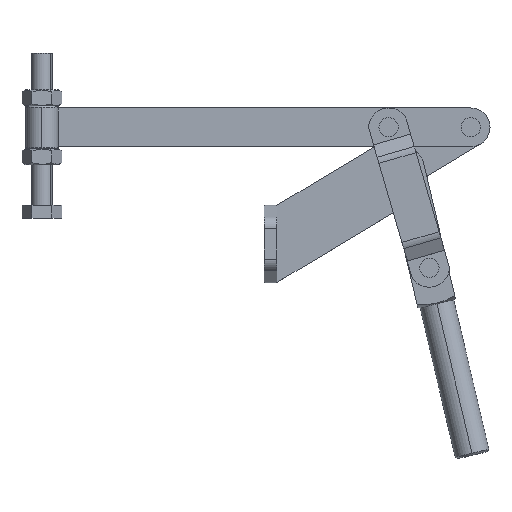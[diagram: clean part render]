
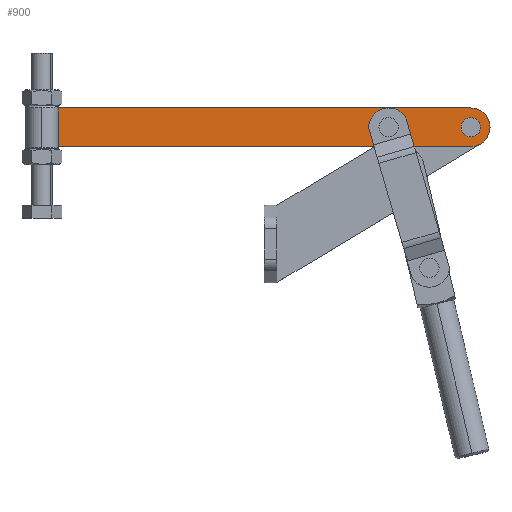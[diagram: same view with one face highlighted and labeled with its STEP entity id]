
A CAD part, top view. The second image highlights one B-rep face of the part: STEP entity #900.
In plain terms, the highlighted planar face has unit normal (0, 0, 1) as drawn and (0, 0, -1) by its records, which use the part's own axes.
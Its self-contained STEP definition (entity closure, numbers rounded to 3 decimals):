
#2 = EDGE_CURVE ( 'NONE', #1399, #1011, #3163, .T. ) ;
#14 = EDGE_CURVE ( 'NONE', #999, #1076, #3095, .T. ) ;
#38 = EDGE_CURVE ( 'NONE', #1320, #1068, #3143, .T. ) ;
#44 = EDGE_CURVE ( 'NONE', #1067, #1052, #423, .T. ) ;
#67 = EDGE_CURVE ( 'NONE', #1068, #1067, #269, .T. ) ;
#96 = EDGE_CURVE ( 'NONE', #1052, #1320, #2796, .T. ) ;
#104 = EDGE_CURVE ( 'NONE', #1076, #999, #7279, .T. ) ;
#107 = EDGE_CURVE ( 'NONE', #1011, #1399, #7286, .T. ) ;
#261 = DIRECTION ( 'NONE',  ( -1., 0., 0. ) ) ;
#266 = CARTESIAN_POINT ( 'NONE',  ( -213., 9.525, -9.525 ) ) ;
#269 = LINE ( 'NONE', #266, #7290 ) ;
#354 = CARTESIAN_POINT ( 'NONE',  ( -9.525, 0., -9.525 ) ) ;
#366 = DIRECTION ( 'NONE',  ( 0., 0., 1. ) ) ;
#370 = DIRECTION ( 'NONE',  ( -1., 0., 0. ) ) ;
#420 = DIRECTION ( 'NONE',  ( 0., -1., 0. ) ) ;
#422 = CARTESIAN_POINT ( 'NONE',  ( -213., -9.525, -9.525 ) ) ;
#423 = LINE ( 'NONE', #422, #3091 ) ;
#590 = DIRECTION ( 'NONE',  ( 1., 0., 0. ) ) ;
#591 = DIRECTION ( 'NONE',  ( 0., 0., 1. ) ) ;
#593 = CARTESIAN_POINT ( 'NONE',  ( -9.525, 0., -9.525 ) ) ;
#671 = DIRECTION ( 'NONE',  ( 1., 0., 0. ) ) ;
#672 = DIRECTION ( 'NONE',  ( 0., 0., 1. ) ) ;
#673 = CARTESIAN_POINT ( 'NONE',  ( -50.025, 0., -9.525 ) ) ;
#704 = CARTESIAN_POINT ( 'NONE',  ( -5.525, 0., -9.525 ) ) ;
#747 = CARTESIAN_POINT ( 'NONE',  ( -46.025, 0., -9.525 ) ) ;
#750 = CARTESIAN_POINT ( 'NONE',  ( -213., 9.525, -9.525 ) ) ;
#753 = CARTESIAN_POINT ( 'NONE',  ( -9.525, 9.525, -9.525 ) ) ;
#756 = CARTESIAN_POINT ( 'NONE',  ( -213., -9.525, -9.525 ) ) ;
#780 = CARTESIAN_POINT ( 'NONE',  ( -13.525, 0., -9.525 ) ) ;
#790 = CARTESIAN_POINT ( 'NONE',  ( -54.025, 0., -9.525 ) ) ;
#821 = CARTESIAN_POINT ( 'NONE',  ( -9.525, -9.525, -9.525 ) ) ;
#900 = ADVANCED_FACE ( 'NONE', ( #2075, #2073, #2049 ), #2058, .T. ) ;
#999 = VERTEX_POINT ( 'NONE', #790 ) ;
#1011 = VERTEX_POINT ( 'NONE', #780 ) ;
#1052 = VERTEX_POINT ( 'NONE', #756 ) ;
#1067 = VERTEX_POINT ( 'NONE', #750 ) ;
#1068 = VERTEX_POINT ( 'NONE', #753 ) ;
#1076 = VERTEX_POINT ( 'NONE', #747 ) ;
#1289 = EDGE_LOOP ( 'NONE', ( #6498, #6499, #6503, #6504 ) ) ;
#1290 = EDGE_LOOP ( 'NONE', ( #6496, #6497 ) ) ;
#1298 = EDGE_LOOP ( 'NONE', ( #6492, #6493 ) ) ;
#1320 = VERTEX_POINT ( 'NONE', #821 ) ;
#1399 = VERTEX_POINT ( 'NONE', #704 ) ;
#2021 = AXIS2_PLACEMENT_3D ( 'NONE', #2070, #2054, #2077 ) ;
#2049 = FACE_OUTER_BOUND ( 'NONE', #1289, .T. ) ;
#2054 = DIRECTION ( 'NONE',  ( 0., 0., -1. ) ) ;
#2058 = PLANE ( 'NONE',  #2021 ) ;
#2070 = CARTESIAN_POINT ( 'NONE',  ( -9.525, 0., -9.525 ) ) ;
#2073 = FACE_BOUND ( 'NONE', #1290, .T. ) ;
#2075 = FACE_BOUND ( 'NONE', #1298, .T. ) ;
#2077 = DIRECTION ( 'NONE',  ( -1., 0., 0. ) ) ;
#2759 = DIRECTION ( 'NONE',  ( 1., 0., 0. ) ) ;
#2760 = DIRECTION ( 'NONE',  ( 0., 0., 1. ) ) ;
#2761 = CARTESIAN_POINT ( 'NONE',  ( -9.525, 0., -9.525 ) ) ;
#2768 = DIRECTION ( 'NONE',  ( 0., 0., 1. ) ) ;
#2769 = CARTESIAN_POINT ( 'NONE',  ( -50.025, 0., -9.525 ) ) ;
#2774 = DIRECTION ( 'NONE',  ( 1., 0., 0. ) ) ;
#2792 = DIRECTION ( 'NONE',  ( 1., 0., 0. ) ) ;
#2796 = LINE ( 'NONE', #2799, #7257 ) ;
#2799 = CARTESIAN_POINT ( 'NONE',  ( -9.525, -9.525, -9.525 ) ) ;
#3091 = VECTOR ( 'NONE', #420, 1000. ) ;
#3095 = CIRCLE ( 'NONE', #3138, 4. ) ;
#3115 = AXIS2_PLACEMENT_3D ( 'NONE', #593, #591, #590 ) ;
#3116 = AXIS2_PLACEMENT_3D ( 'NONE', #354, #366, #370 ) ;
#3138 = AXIS2_PLACEMENT_3D ( 'NONE', #673, #672, #671 ) ;
#3143 = CIRCLE ( 'NONE', #3116, 9.525 ) ;
#3163 = CIRCLE ( 'NONE', #3115, 4. ) ;
#6492 = ORIENTED_EDGE ( 'NONE', *, *, #2, .T. ) ;
#6493 = ORIENTED_EDGE ( 'NONE', *, *, #107, .T. ) ;
#6496 = ORIENTED_EDGE ( 'NONE', *, *, #104, .T. ) ;
#6497 = ORIENTED_EDGE ( 'NONE', *, *, #14, .T. ) ;
#6498 = ORIENTED_EDGE ( 'NONE', *, *, #44, .F. ) ;
#6499 = ORIENTED_EDGE ( 'NONE', *, *, #67, .F. ) ;
#6503 = ORIENTED_EDGE ( 'NONE', *, *, #38, .F. ) ;
#6504 = ORIENTED_EDGE ( 'NONE', *, *, #96, .F. ) ;
#7240 = AXIS2_PLACEMENT_3D ( 'NONE', #2769, #2768, #2774 ) ;
#7257 = VECTOR ( 'NONE', #2792, 1000. ) ;
#7279 = CIRCLE ( 'NONE', #7240, 4. ) ;
#7286 = CIRCLE ( 'NONE', #7287, 4. ) ;
#7287 = AXIS2_PLACEMENT_3D ( 'NONE', #2761, #2760, #2759 ) ;
#7290 = VECTOR ( 'NONE', #261, 1000. ) ;
